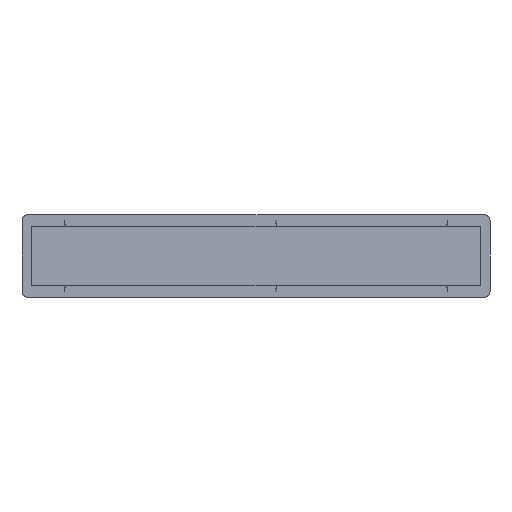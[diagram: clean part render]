
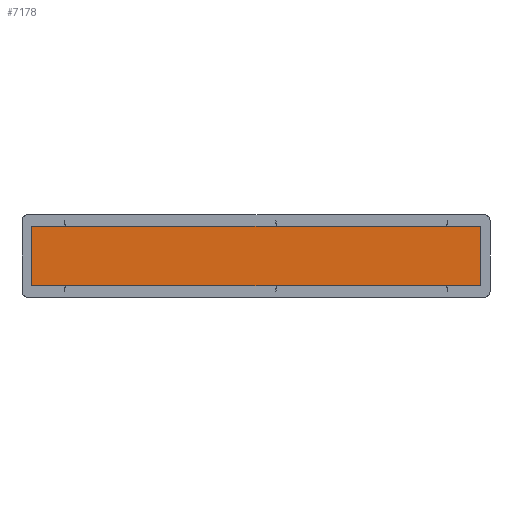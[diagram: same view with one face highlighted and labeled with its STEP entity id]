
A CAD part, front view. The second image highlights one B-rep face of the part: STEP entity #7178.
In plain terms, the highlighted planar face has unit normal (0, -1, 0).
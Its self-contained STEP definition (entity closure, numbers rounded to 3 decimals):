
#691 = AXIS2_PLACEMENT_3D ( 'NONE', #3142, #20180, #8381 ) ;
#1096 = ORIENTED_EDGE ( 'NONE', *, *, #5518, .T. ) ;
#1440 = PLANE ( 'NONE',  #691 ) ;
#3142 = CARTESIAN_POINT ( 'NONE',  ( 0., -416.5, 0. ) ) ;
#3160 = VECTOR ( 'NONE', #10925, 1000. ) ;
#3510 = LINE ( 'NONE', #12150, #16702 ) ;
#3985 = CARTESIAN_POINT ( 'NONE',  ( 1139.5, -416.5, -150. ) ) ;
#4171 = VERTEX_POINT ( 'NONE', #10579 ) ;
#4441 = CARTESIAN_POINT ( 'NONE',  ( -1139.5, -416.5, -150. ) ) ;
#4474 = VECTOR ( 'NONE', #15363, 1000. ) ;
#5213 = EDGE_CURVE ( 'NONE', #4171, #6554, #20148, .T. ) ;
#5518 = EDGE_CURVE ( 'NONE', #11995, #4171, #14654, .T. ) ;
#6195 = CARTESIAN_POINT ( 'NONE',  ( 1139.5, -416.5, -150. ) ) ;
#6554 = VERTEX_POINT ( 'NONE', #11868 ) ;
#6744 = CARTESIAN_POINT ( 'NONE',  ( 1139.5, -416.5, 150. ) ) ;
#7178 = ADVANCED_FACE ( 'NONE', ( #14963 ), #1440, .T. ) ;
#8381 = DIRECTION ( 'NONE',  ( 0., 0., -1. ) ) ;
#9714 = ORIENTED_EDGE ( 'NONE', *, *, #12868, .T. ) ;
#10579 = CARTESIAN_POINT ( 'NONE',  ( 1139.5, -416.5, -150. ) ) ;
#10925 = DIRECTION ( 'NONE',  ( 1., 0., 0. ) ) ;
#11026 = EDGE_CURVE ( 'NONE', #17830, #11995, #3510, .T. ) ;
#11633 = DIRECTION ( 'NONE',  ( 0., 0., 1. ) ) ;
#11868 = CARTESIAN_POINT ( 'NONE',  ( 1139.5, -416.5, 150. ) ) ;
#11995 = VERTEX_POINT ( 'NONE', #4441 ) ;
#12150 = CARTESIAN_POINT ( 'NONE',  ( -1139.5, -416.5, -150. ) ) ;
#12868 = EDGE_CURVE ( 'NONE', #6554, #17830, #22072, .T. ) ;
#14299 = ORIENTED_EDGE ( 'NONE', *, *, #5213, .T. ) ;
#14654 = LINE ( 'NONE', #3985, #3160 ) ;
#14767 = VECTOR ( 'NONE', #11633, 1000. ) ;
#14963 = FACE_OUTER_BOUND ( 'NONE', #16759, .T. ) ;
#15363 = DIRECTION ( 'NONE',  ( -1., 0., 0. ) ) ;
#15378 = CARTESIAN_POINT ( 'NONE',  ( -1139.5, -416.5, 150. ) ) ;
#16702 = VECTOR ( 'NONE', #19191, 1000. ) ;
#16759 = EDGE_LOOP ( 'NONE', ( #21340, #1096, #14299, #9714 ) ) ;
#17830 = VERTEX_POINT ( 'NONE', #15378 ) ;
#19191 = DIRECTION ( 'NONE',  ( 0., 0., -1. ) ) ;
#20148 = LINE ( 'NONE', #6195, #14767 ) ;
#20180 = DIRECTION ( 'NONE',  ( 0., -1., 0. ) ) ;
#21340 = ORIENTED_EDGE ( 'NONE', *, *, #11026, .T. ) ;
#22072 = LINE ( 'NONE', #6744, #4474 ) ;
